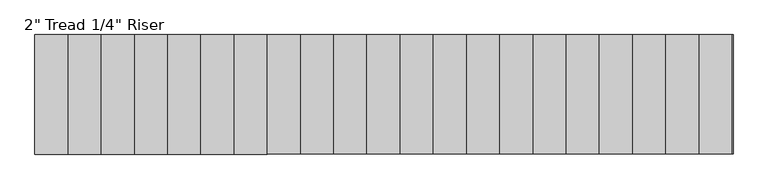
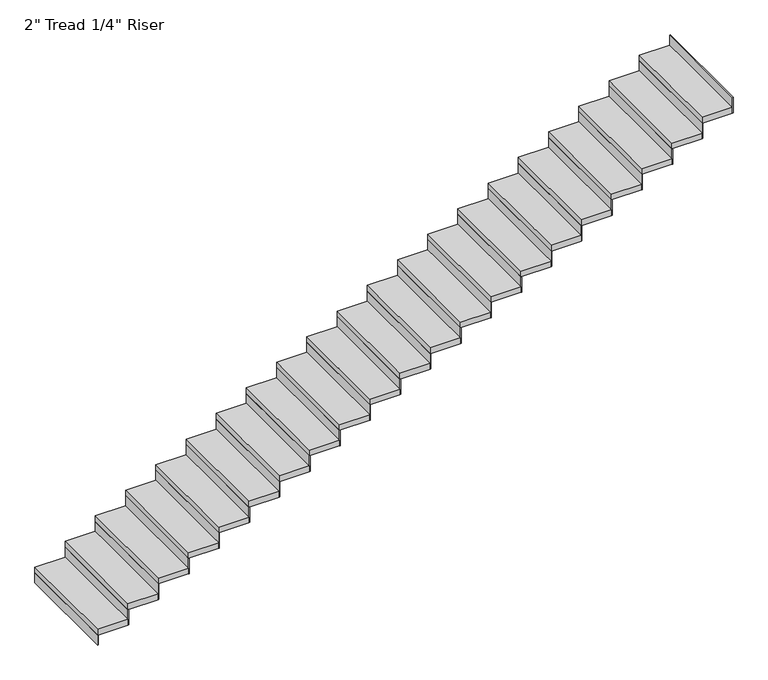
"""IFC4 building model written with IfcOpenShell, lengths in millimetres: stair flight geometry."""

from ifc_helpers import new_model, si_unit, frame, origin, origin_with_axes, place, context, project, spatial, polyline, outline, extrude, source, transform, mapped, element, save


def stair_flight_84e7cb00(model_context):
    return source(origin(), model_context, "Body", "SweptSolid", [
        extrude(outline(polyline([(-14491.9069957, -2400.7855758), (-14498.2569957, -2400.7855758), (-14498.2569957, -1486.3855758), (-14491.9069957, -1486.3855758), (-14491.9069957, -2400.7855758)])), origin_with_axes(), (0.0, 0.0, 1.0), 87.7454545),
        extrude(outline(polyline([(-14244.2569957, -1486.3855758), (-14244.2569957, -2400.7855758), (-14498.2569957, -2400.7855758), (-14498.2569957, -1486.3855758), (-14244.2569957, -1486.3855758)])), frame((0.0, 0.0, 87.7454545), z_axis=(0.0, 0.0, 1.0), x_axis=(1.0, 0.0, 0.0)), (0.0, 0.0, 1.0), 50.8),
        extrude(outline(polyline([(-14237.9069957, -2400.7855758), (-14244.2569957, -2400.7855758), (-14244.2569957, -1486.3855758), (-14237.9069957, -1486.3855758), (-14237.9069957, -2400.7855758)])), frame((0.0, 0.0, 87.7454545), z_axis=(0.0, 0.0, 1.0), x_axis=(1.0, 0.0, 0.0)), (0.0, 0.0, 1.0), 138.5454545),
        extrude(outline(polyline([(-13990.2569957, -1486.3855758), (-13990.2569957, -2400.7855758), (-14244.2569957, -2400.7855758), (-14244.2569957, -1486.3855758), (-13990.2569957, -1486.3855758)])), frame((0.0, 0.0, 226.2909091), z_axis=(0.0, 0.0, 1.0), x_axis=(1.0, 0.0, 0.0)), (0.0, 0.0, 1.0), 50.8),
        extrude(outline(polyline([(-13983.9069957, -2400.7855758), (-13990.2569957, -2400.7855758), (-13990.2569957, -1486.3855758), (-13983.9069957, -1486.3855758), (-13983.9069957, -2400.7855758)])), frame((0.0, 0.0, 226.2909091), z_axis=(0.0, 0.0, 1.0), x_axis=(1.0, 0.0, 0.0)), (0.0, 0.0, 1.0), 138.5454545),
        extrude(outline(polyline([(-13736.2569957, -1486.3855758), (-13736.2569957, -2400.7855758), (-13990.2569957, -2400.7855758), (-13990.2569957, -1486.3855758), (-13736.2569957, -1486.3855758)])), frame((0.0, 0.0, 364.8363636), z_axis=(0.0, 0.0, 1.0), x_axis=(1.0, 0.0, 0.0)), (0.0, 0.0, 1.0), 50.8),
        extrude(outline(polyline([(-13729.9069957, -2400.7855758), (-13736.2569957, -2400.7855758), (-13736.2569957, -1486.3855758), (-13729.9069957, -1486.3855758), (-13729.9069957, -2400.7855758)])), frame((0.0, 0.0, 364.8363636), z_axis=(0.0, 0.0, 1.0), x_axis=(1.0, 0.0, 0.0)), (0.0, 0.0, 1.0), 138.5454545),
        extrude(outline(polyline([(-13482.2569957, -1486.3855758), (-13482.2569957, -2400.7855758), (-13736.2569957, -2400.7855758), (-13736.2569957, -1486.3855758), (-13482.2569957, -1486.3855758)])), frame((0.0, 0.0, 503.3818182), z_axis=(0.0, 0.0, 1.0), x_axis=(1.0, 0.0, 0.0)), (0.0, 0.0, 1.0), 50.8),
        extrude(outline(polyline([(-13475.9069957, -2400.7855758), (-13482.2569957, -2400.7855758), (-13482.2569957, -1486.3855758), (-13475.9069957, -1486.3855758), (-13475.9069957, -2400.7855758)])), frame((0.0, 0.0, 503.3818182), z_axis=(0.0, 0.0, 1.0), x_axis=(1.0, 0.0, 0.0)), (0.0, 0.0, 1.0), 138.5454545),
        extrude(outline(polyline([(-13228.2569957, -1486.3855758), (-13228.2569957, -2400.7855758), (-13482.2569957, -2400.7855758), (-13482.2569957, -1486.3855758), (-13228.2569957, -1486.3855758)])), frame((0.0, 0.0, 641.9272727), z_axis=(0.0, 0.0, 1.0), x_axis=(1.0, 0.0, 0.0)), (0.0, 0.0, 1.0), 50.8),
        extrude(outline(polyline([(-13221.9069957, -2400.7855758), (-13228.2569957, -2400.7855758), (-13228.2569957, -1486.3855758), (-13221.9069957, -1486.3855758), (-13221.9069957, -2400.7855758)])), frame((0.0, 0.0, 641.9272727), z_axis=(0.0, 0.0, 1.0), x_axis=(1.0, 0.0, 0.0)), (0.0, 0.0, 1.0), 138.5454545),
        extrude(outline(polyline([(-12974.2569957, -1486.3855758), (-12974.2569957, -2400.7855758), (-13228.2569957, -2400.7855758), (-13228.2569957, -1486.3855758), (-12974.2569957, -1486.3855758)])), frame((0.0, 0.0, 780.4727273), z_axis=(0.0, 0.0, 1.0), x_axis=(1.0, 0.0, 0.0)), (0.0, 0.0, 1.0), 50.8),
        extrude(outline(polyline([(-12967.9069957, -2400.7855758), (-12974.2569957, -2400.7855758), (-12974.2569957, -1486.3855758), (-12967.9069957, -1486.3855758), (-12967.9069957, -2400.7855758)])), frame((0.0, 0.0, 780.4727273), z_axis=(0.0, 0.0, 1.0), x_axis=(1.0, 0.0, 0.0)), (0.0, 0.0, 1.0), 138.5454545),
        extrude(outline(polyline([(-12720.2569957, -1486.3855758), (-12720.2569957, -2400.7855758), (-12974.2569957, -2400.7855758), (-12974.2569957, -1486.3855758), (-12720.2569957, -1486.3855758)])), frame((0.0, 0.0, 919.0181818), z_axis=(0.0, 0.0, 1.0), x_axis=(1.0, 0.0, 0.0)), (0.0, 0.0, 1.0), 50.8),
        extrude(outline(polyline([(-12713.9069957, -2400.7855758), (-12720.2569957, -2400.7855758), (-12720.2569957, -1486.3855758), (-12713.9069957, -1486.3855758), (-12713.9069957, -2400.7855758)])), frame((0.0, 0.0, 919.0181818), z_axis=(0.0, 0.0, 1.0), x_axis=(1.0, 0.0, 0.0)), (0.0, 0.0, 1.0), 138.5454545),
        extrude(outline(polyline([(-12466.2569957, -1486.3855758), (-12466.2569957, -2400.7855758), (-12720.2569957, -2400.7855758), (-12720.2569957, -1486.3855758), (-12466.2569957, -1486.3855758)])), frame((0.0, 0.0, 1057.5636364), z_axis=(0.0, 0.0, 1.0), x_axis=(1.0, 0.0, 0.0)), (0.0, 0.0, 1.0), 50.8),
        extrude(outline(polyline([(-12459.9069957, -2400.7855758), (-12466.2569957, -2400.7855758), (-12466.2569957, -1486.3855758), (-12459.9069957, -1486.3855758), (-12459.9069957, -2400.7855758)])), frame((0.0, 0.0, 1057.5636364), z_axis=(0.0, 0.0, 1.0), x_axis=(1.0, 0.0, 0.0)), (0.0, 0.0, 1.0), 138.5454545),
        extrude(outline(polyline([(-12212.2569957, -1486.3855758), (-12212.2569957, -2400.7855758), (-12466.2569957, -2400.7855758), (-12466.2569957, -1486.3855758), (-12212.2569957, -1486.3855758)])), frame((0.0, 0.0, 1196.1090909), z_axis=(0.0, 0.0, 1.0), x_axis=(1.0, 0.0, 0.0)), (0.0, 0.0, 1.0), 50.8),
        extrude(outline(polyline([(-12205.9069957, -2400.7855758), (-12212.2569957, -2400.7855758), (-12212.2569957, -1486.3855758), (-12205.9069957, -1486.3855758), (-12205.9069957, -2400.7855758)])), frame((0.0, 0.0, 1196.1090909), z_axis=(0.0, 0.0, 1.0), x_axis=(1.0, 0.0, 0.0)), (0.0, 0.0, 1.0), 138.5454545),
        extrude(outline(polyline([(-11958.2569957, -1486.3855758), (-11958.2569957, -2400.7855758), (-12212.2569957, -2400.7855758), (-12212.2569957, -1486.3855758), (-11958.2569957, -1486.3855758)])), frame((0.0, 0.0, 1334.6545455), z_axis=(0.0, 0.0, 1.0), x_axis=(1.0, 0.0, 0.0)), (0.0, 0.0, 1.0), 50.8),
        extrude(outline(polyline([(-11951.9069957, -2400.7855758), (-11958.2569957, -2400.7855758), (-11958.2569957, -1486.3855758), (-11951.9069957, -1486.3855758), (-11951.9069957, -2400.7855758)])), frame((0.0, 0.0, 1334.6545455), z_axis=(0.0, 0.0, 1.0), x_axis=(1.0, 0.0, 0.0)), (0.0, 0.0, 1.0), 138.5454545),
        extrude(outline(polyline([(-11704.2569957, -1486.3855758), (-11704.2569957, -2400.7855758), (-11958.2569957, -2400.7855758), (-11958.2569957, -1486.3855758), (-11704.2569957, -1486.3855758)])), frame((0.0, 0.0, 1473.2), z_axis=(0.0, 0.0, 1.0), x_axis=(1.0, 0.0, 0.0)), (0.0, 0.0, 1.0), 50.8),
        extrude(outline(polyline([(-11697.9069957, -2400.7855758), (-11704.2569957, -2400.7855758), (-11704.2569957, -1486.3855758), (-11697.9069957, -1486.3855758), (-11697.9069957, -2400.7855758)])), frame((0.0, 0.0, 1473.2), z_axis=(0.0, 0.0, 1.0), x_axis=(1.0, 0.0, 0.0)), (0.0, 0.0, 1.0), 138.5454545),
        extrude(outline(polyline([(-11450.2569957, -1486.3855758), (-11450.2569957, -2400.7855758), (-11704.2569957, -2400.7855758), (-11704.2569957, -1486.3855758), (-11450.2569957, -1486.3855758)])), frame((0.0, 0.0, 1611.7454545), z_axis=(0.0, 0.0, 1.0), x_axis=(1.0, 0.0, 0.0)), (0.0, 0.0, 1.0), 50.8),
        extrude(outline(polyline([(-11443.9069957, -2400.7855758), (-11450.2569957, -2400.7855758), (-11450.2569957, -1486.3855758), (-11443.9069957, -1486.3855758), (-11443.9069957, -2400.7855758)])), frame((0.0, 0.0, 1611.7454545), z_axis=(0.0, 0.0, 1.0), x_axis=(1.0, 0.0, 0.0)), (0.0, 0.0, 1.0), 138.5454545),
        extrude(outline(polyline([(-11196.2569957, -1486.3855758), (-11196.2569957, -2400.7855758), (-11450.2569957, -2400.7855758), (-11450.2569957, -1486.3855758), (-11196.2569957, -1486.3855758)])), frame((0.0, 0.0, 1750.2909091), z_axis=(0.0, 0.0, 1.0), x_axis=(1.0, 0.0, 0.0)), (0.0, 0.0, 1.0), 50.8),
        extrude(outline(polyline([(-11189.9069957, -2400.7855758), (-11196.2569957, -2400.7855758), (-11196.2569957, -1486.3855758), (-11189.9069957, -1486.3855758), (-11189.9069957, -2400.7855758)])), frame((0.0, 0.0, 1750.2909091), z_axis=(0.0, 0.0, 1.0), x_axis=(1.0, 0.0, 0.0)), (0.0, 0.0, 1.0), 138.5454545),
        extrude(outline(polyline([(-10942.2569957, -1486.3855758), (-10942.2569957, -2400.7855758), (-11196.2569957, -2400.7855758), (-11196.2569957, -1486.3855758), (-10942.2569957, -1486.3855758)])), frame((0.0, 0.0, 1888.8363636), z_axis=(0.0, 0.0, 1.0), x_axis=(1.0, 0.0, 0.0)), (0.0, 0.0, 1.0), 50.8),
        extrude(outline(polyline([(-10935.9069957, -2400.7855758), (-10942.2569957, -2400.7855758), (-10942.2569957, -1486.3855758), (-10935.9069957, -1486.3855758), (-10935.9069957, -2400.7855758)])), frame((0.0, 0.0, 1888.8363636), z_axis=(0.0, 0.0, 1.0), x_axis=(1.0, 0.0, 0.0)), (0.0, 0.0, 1.0), 138.5454545),
        extrude(outline(polyline([(-10688.2569957, -1486.3855758), (-10688.2569957, -2400.7855758), (-10942.2569957, -2400.7855758), (-10942.2569957, -1486.3855758), (-10688.2569957, -1486.3855758)])), frame((0.0, 0.0, 2027.3818182), z_axis=(0.0, 0.0, 1.0), x_axis=(1.0, 0.0, 0.0)), (0.0, 0.0, 1.0), 50.8),
        extrude(outline(polyline([(-10681.9069957, -2400.7855758), (-10688.2569957, -2400.7855758), (-10688.2569957, -1486.3855758), (-10681.9069957, -1486.3855758), (-10681.9069957, -2400.7855758)])), frame((0.0, 0.0, 2027.3818182), z_axis=(0.0, 0.0, 1.0), x_axis=(1.0, 0.0, 0.0)), (0.0, 0.0, 1.0), 138.5454545),
        extrude(outline(polyline([(-10434.2569957, -1486.3855758), (-10434.2569957, -2400.7855758), (-10688.2569957, -2400.7855758), (-10688.2569957, -1486.3855758), (-10434.2569957, -1486.3855758)])), frame((0.0, 0.0, 2165.9272727), z_axis=(0.0, 0.0, 1.0), x_axis=(1.0, 0.0, 0.0)), (0.0, 0.0, 1.0), 50.8),
        extrude(outline(polyline([(-10427.9069957, -2400.7855758), (-10434.2569957, -2400.7855758), (-10434.2569957, -1486.3855758), (-10427.9069957, -1486.3855758), (-10427.9069957, -2400.7855758)])), frame((0.0, 0.0, 2165.9272727), z_axis=(0.0, 0.0, 1.0), x_axis=(1.0, 0.0, 0.0)), (0.0, 0.0, 1.0), 138.5454545),
        extrude(outline(polyline([(-10180.2569957, -1486.3855758), (-10180.2569957, -2400.7855758), (-10434.2569957, -2400.7855758), (-10434.2569957, -1486.3855758), (-10180.2569957, -1486.3855758)])), frame((0.0, 0.0, 2304.4727273), z_axis=(0.0, 0.0, 1.0), x_axis=(1.0, 0.0, 0.0)), (0.0, 0.0, 1.0), 50.8),
        extrude(outline(polyline([(-10173.9069957, -2400.7855758), (-10180.2569957, -2400.7855758), (-10180.2569957, -1486.3855758), (-10173.9069957, -1486.3855758), (-10173.9069957, -2400.7855758)])), frame((0.0, 0.0, 2304.4727273), z_axis=(0.0, 0.0, 1.0), x_axis=(1.0, 0.0, 0.0)), (0.0, 0.0, 1.0), 138.5454545),
        extrude(outline(polyline([(-9926.2569957, -1486.3855758), (-9926.2569957, -2400.7855758), (-10180.2569957, -2400.7855758), (-10180.2569957, -1486.3855758), (-9926.2569957, -1486.3855758)])), frame((0.0, 0.0, 2443.0181818), z_axis=(0.0, 0.0, 1.0), x_axis=(1.0, 0.0, 0.0)), (0.0, 0.0, 1.0), 50.8),
        extrude(outline(polyline([(-9919.9069957, -2400.7855758), (-9926.2569957, -2400.7855758), (-9926.2569957, -1486.3855758), (-9919.9069957, -1486.3855758), (-9919.9069957, -2400.7855758)])), frame((0.0, 0.0, 2443.0181818), z_axis=(0.0, 0.0, 1.0), x_axis=(1.0, 0.0, 0.0)), (0.0, 0.0, 1.0), 138.5454545),
        extrude(outline(polyline([(-9672.2569957, -1486.3855758), (-9672.2569957, -2400.7855758), (-9926.2569957, -2400.7855758), (-9926.2569957, -1486.3855758), (-9672.2569957, -1486.3855758)])), frame((0.0, 0.0, 2581.5636364), z_axis=(0.0, 0.0, 1.0), x_axis=(1.0, 0.0, 0.0)), (0.0, 0.0, 1.0), 50.8),
        extrude(outline(polyline([(-9665.9069957, -2400.7855758), (-9672.2569957, -2400.7855758), (-9672.2569957, -1486.3855758), (-9665.9069957, -1486.3855758), (-9665.9069957, -2400.7855758)])), frame((0.0, 0.0, 2581.5636364), z_axis=(0.0, 0.0, 1.0), x_axis=(1.0, 0.0, 0.0)), (0.0, 0.0, 1.0), 138.5454545),
        extrude(outline(polyline([(-9418.2569957, -1486.3855758), (-9418.2569957, -2400.7855758), (-9672.2569957, -2400.7855758), (-9672.2569957, -1486.3855758), (-9418.2569957, -1486.3855758)])), frame((0.0, 0.0, 2720.1090909), z_axis=(0.0, 0.0, 1.0), x_axis=(1.0, 0.0, 0.0)), (0.0, 0.0, 1.0), 50.8),
        extrude(outline(polyline([(-9411.9069957, -2400.7855758), (-9418.2569957, -2400.7855758), (-9418.2569957, -1486.3855758), (-9411.9069957, -1486.3855758), (-9411.9069957, -2400.7855758)])), frame((0.0, 0.0, 2720.1090909), z_axis=(0.0, 0.0, 1.0), x_axis=(1.0, 0.0, 0.0)), (0.0, 0.0, 1.0), 138.5454545),
        extrude(outline(polyline([(-9157.9069957, -2400.7855758), (-9164.2569957, -2400.7855758), (-9164.2569957, -1486.3855758), (-9157.9069957, -1486.3855758), (-9157.9069957, -2400.7855758)])), frame((0.0, 0.0, 2858.6545455), z_axis=(0.0, 0.0, 1.0), x_axis=(1.0, 0.0, 0.0)), (0.0, 0.0, 1.0), 138.5454545),
        extrude(outline(polyline([(-9164.2569957, -1486.3855758), (-9164.2569957, -2400.7855758), (-9418.2569957, -2400.7855758), (-9418.2569957, -1486.3855758), (-9164.2569957, -1486.3855758)])), frame((0.0, 0.0, 2858.6545455), z_axis=(0.0, 0.0, 1.0), x_axis=(1.0, 0.0, 0.0)), (0.0, 0.0, 1.0), 50.8),
    ])


if __name__ == "__main__":
    model = new_model("IFC4")
    model_context = context("Model", 3, world=origin())
    ifc_project = project(units=[si_unit("LENGTHUNIT", "METRE", prefix="MILLI")], contexts=[model_context])
    site = spatial("IfcSite", under=ifc_project)
    building = spatial("IfcBuilding", under=site)
    placement = place(None, origin())
    stair_flight_shape = stair_flight_84e7cb00(model_context)
    element("IfcStairFlight", 1, ObjectType="2\" Tread 1/4\" Riser", at=placement, inside=building, context=model_context, shape_type="MappedRepresentation", body=[
        mapped(stair_flight_shape, transform((0.0, 0.0, 0.0), x_axis=(1.0, 0.0, 0.0), y_axis=(0.0, 1.0, 0.0), z_axis=(0.0, 0.0, 1.0))),
    ])
    save(model, "model.ifc")
